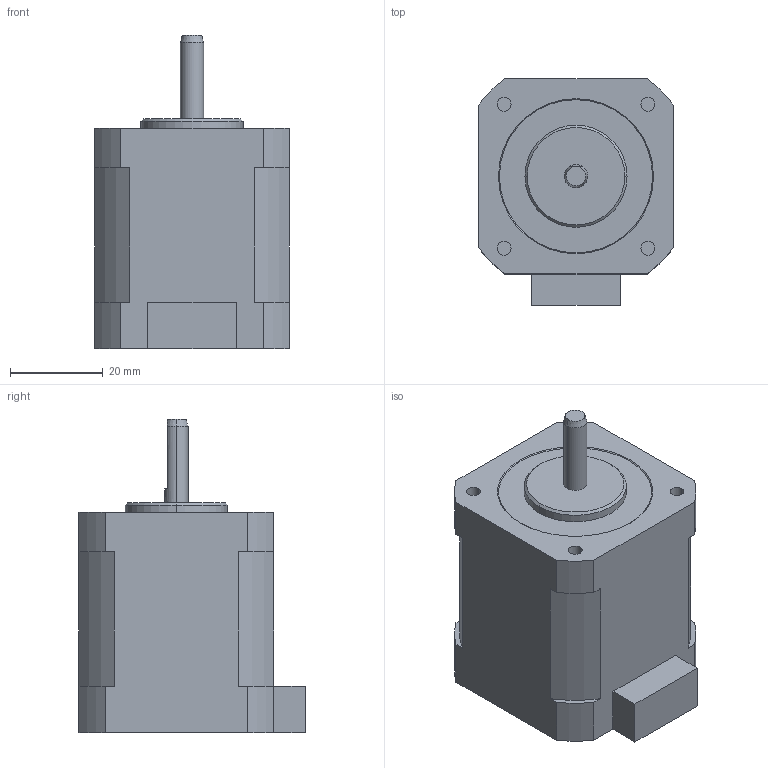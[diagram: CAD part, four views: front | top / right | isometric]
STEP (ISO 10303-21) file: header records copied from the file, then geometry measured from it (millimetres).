
FILE_DESCRIPTION (( 'STEP AP203' ), '1' );
FILE_NAME ('PMSA-U42D3_3D.STEP', '2017-01-31T04:31:55', ( 'user01' ), ( '' ), 'SwSTEP 2.0', 'SolidWorks 2014', '' );
FILE_SCHEMA (( 'CONFIG_CONTROL_DESIGN' ));
Length unit declared in the file: millimetre
Products named in the file (1): PMSA-U42D3_3D
Bounding box: 42 x 48.7 x 67.5 mm (x, y, z)
Volume: 81983.1 mm3; surface area: 11696.3 mm2
Topology: 1 solids, 1 shells, 58 faces, 143 edges, 94 vertices
Faces by surface type: plane 27, cylinder 24, cone 7
Entity records: 1821 total; most frequent: DIRECTION 318, CARTESIAN_POINT 310, ORIENTED_EDGE 286, EDGE_CURVE 143, AXIS2_PLACEMENT_3D 118, VERTEX_POINT 94, VECTOR 82, LINE 82
